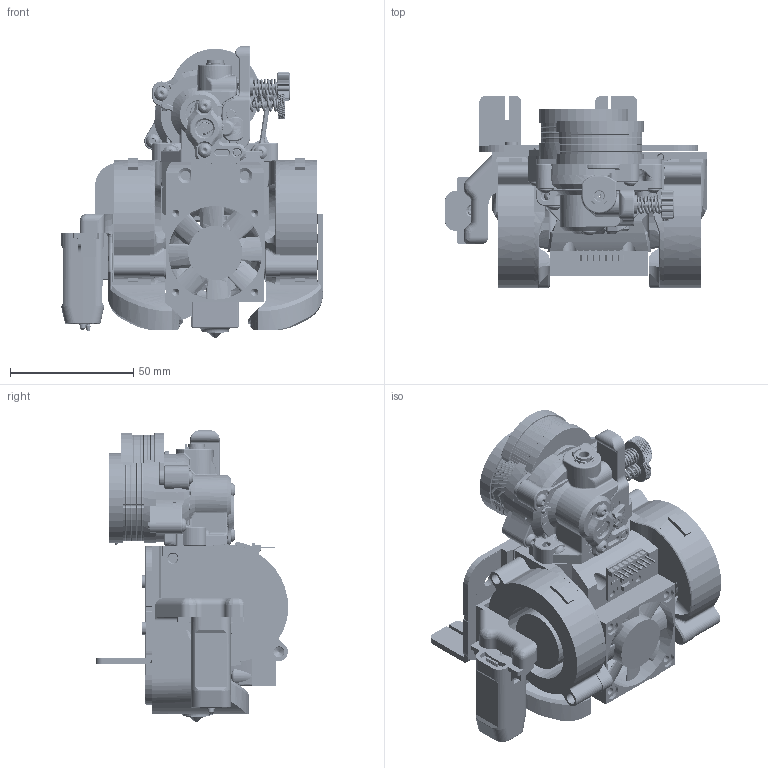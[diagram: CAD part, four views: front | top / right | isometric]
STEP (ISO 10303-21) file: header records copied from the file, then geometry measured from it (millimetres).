
FILE_DESCRIPTION(/* description */ (''),/* implementation_level */ '2;1');
FILE_NAME(/* name */ 'V6_Speedster_ConceptPrototype_rev5.step',/* time_stamp */ '2023-01-06T11:23:55-07:00',/* author */ (''),/* organization */ (''),/* preprocessor_version */ 'ST-DEVELOPER v19.2',/* originating_system */ 'Autodesk Translation Framework v11.17.0.187',/* authorisation */ '');
FILE_SCHEMA (('AUTOMOTIVE_DESIGN { 1 0 10303 214 3 1 1 }'));
Products named in the file (19): (Unsaved); Printed Parts; Orbiter 2; Sherpa mini; Ender3; Ender5; front_fan; Other Parts; CRtouch; Mount; Fans; hotend; backplate; Extruder; Orbiter2; sherpa mini_1; ADXL; bltouch; dragon
Assembly tree (18 placements, depth 4):
  (Unsaved)
    Printed Parts
      Orbiter 2
      Sherpa mini
      Ender3
      Ender5
      front_fan
    Other Parts
      CRtouch
      Mount
      Fans
      hotend
      backplate
      Extruder
        Orbiter2
        sherpa mini_1
      ADXL
      bltouch
      dragon
Bounding box: 106.19 x 78.11 x 118.34 mm (x, y, z)
Volume: 335099.3 mm3; surface area: 254941.7 mm2
Topology: 208 solids, 212 shells, 13813 faces, 34648 edges, 21260 vertices
Faces by surface type: bspline 4890, cylinder 4084, plane 3314, cone 883, torus 576, sphere 66
Full cylindrical faces by diameter (mm): 0.4 x2, 0.9 x8, 1 x14, 1.05 x66, 1.2 x15, 1.4 x82, 1.5 x4, 1.666 x1, 1.8 x15, 1.875 x1, 1.9 x1, 1.917 x8, 2 x44, 2.075 x5, 2.1 x3, 2.2 x2, 2.3 x48, 2.35 x97, 2.4 x2, 2.43 x9, 2.459 x43, 2.5 x45, 2.529 x8, 2.58 x5, 2.6 x2, 2.63 x4, 2.8 x1, 2.9 x2, 3 x176, 3.041 x35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
Entity records: 733054 total; most frequent: CARTESIAN_POINT 429810, ORIENTED_EDGE 68954, DIRECTION 57506, EDGE_CURVE 34477, AXIS2_PLACEMENT_3D 23093, VERTEX_POINT 21256, EDGE_LOOP 14493, FACE_OUTER_BOUND 13811
